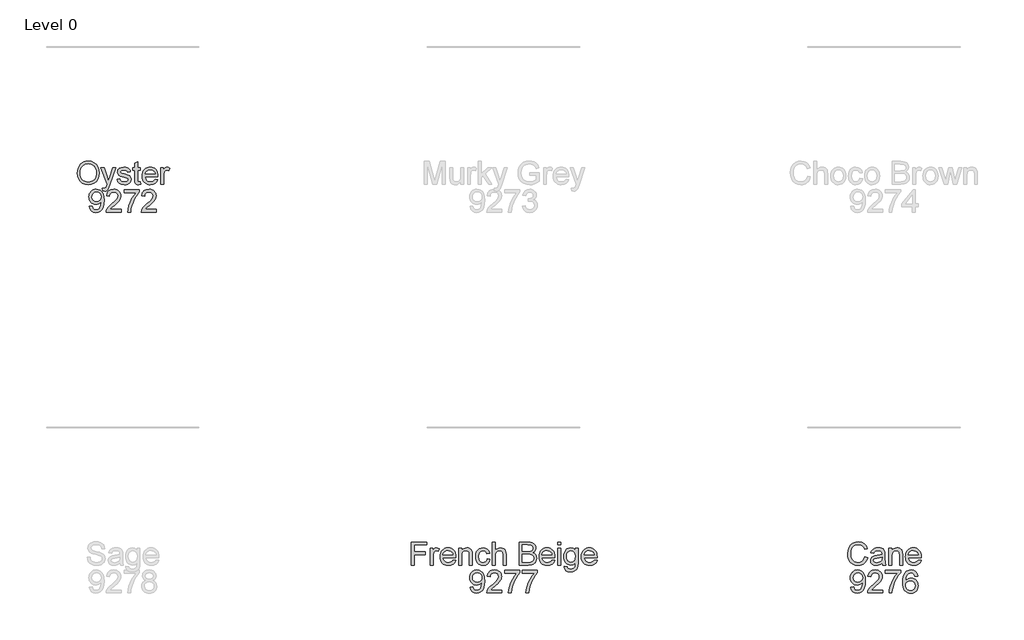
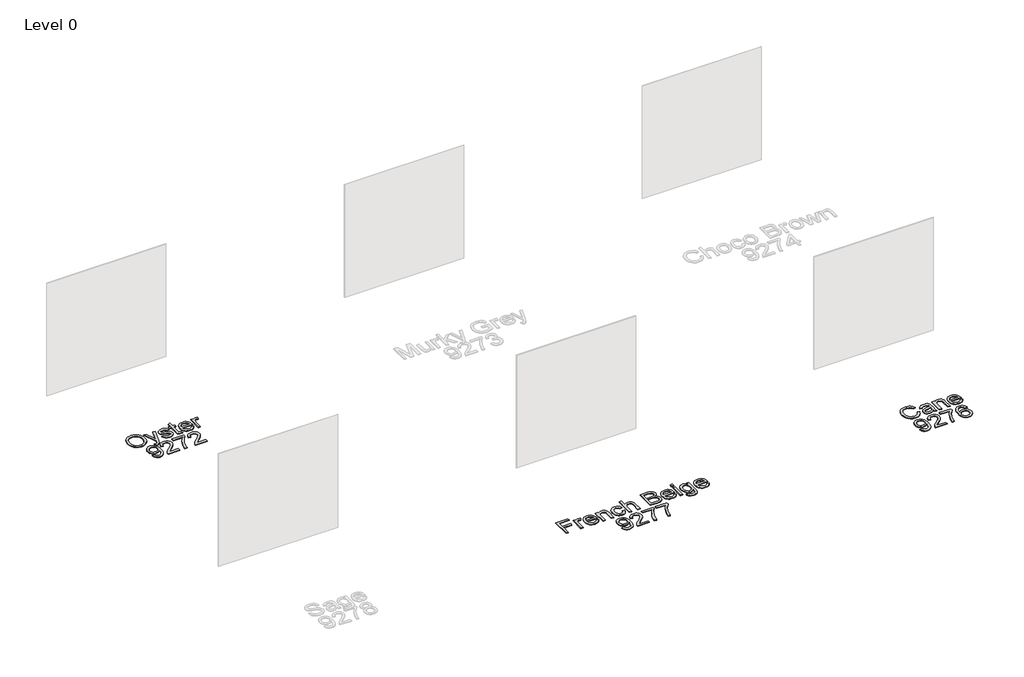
# One storey, part 3 of 6: 3 proxies.
"""IFC4 building model written with IfcOpenShell, lengths in millimetres."""

from ifc_helpers import new_model, si_unit, origin, origin_with_axes, place, context, project, spatial, polyline, outline, extrude, element, save

model = new_model("IFC4")

# Units and contexts
model_context = context("Model", 3, world=origin())
ifc_project = project(units=[si_unit("LENGTHUNIT", "METRE", prefix="MILLI")], contexts=[model_context])

# Site, building, storey
site = spatial("IfcSite", under=ifc_project)
building = spatial("IfcBuilding", under=site)
storey = spatial("IfcBuildingStorey", under=building, Name="Level 0", Elevation=0.0)

# Proxies
placement = place(None, origin())
element("IfcBuildingElementProxy", 1, Name="300mm Arial", ObjectType="300mm Arial", at=placement, inside=storey, context=model_context, shape_type="SweptSolid", body=[
    extrude(outline(polyline([(-5046.3325829, -6856.1491543), (-5043.8217883, -6820.8002931), (-5036.2894044, -6789.5073309), (-5023.7354313, -6762.2702677), (-5006.159869, -6739.0891034), (-4984.6157797, -6720.5800406), (-4960.1562255, -6707.3592814), (-4932.7812066, -6699.4268258), (-4902.4907228, -6696.782674), (-4862.9618024, -6701.7490809), (-4827.5163722, -6716.6483017), (-4798.0858126, -6740.4318727), (-4776.601504, -6772.0513302), (-4763.4681168, -6809.9799639), (-4759.0903211, -6852.6910636), (-4763.6980431, -6895.9723803), (-4777.521209, -6934.4344429), (-4799.7964638, -6966.1090827), (-4829.7604523, -6989.028131), (-4864.9023799, -7002.9340704), (-4902.711452, -7007.5693835), (-4942.8473777, -7002.4466267), (-4978.495143, -6987.0783564), (-5007.8521262, -6962.853327), (-5029.1157055, -6931.1602931), (-5042.0283636, -6894.6939903), (-5046.3325829, -6856.1491543)]), holes=[polyline([(-5008.6614666, -6856.5170363), (-5006.7783706, -6881.4916252), (-5001.1290827, -6903.661114), (-4991.7136029, -6923.0255025), (-4978.5319312, -6939.5847908), (-4962.508371, -6952.8469367), (-4944.567226, -6962.3198981), (-4924.708496, -6968.0036749), (-4902.9321812, -6969.8982672), (-4880.7833858, -6967.9852808), (-4860.6901311, -6962.2463217), (-4842.652417, -6952.6813898), (-4826.6702436, -6939.2904852), (-4813.5851409, -6922.381709), (-4804.2386389, -6902.2631624), (-4798.6307378, -6878.9348454), (-4796.7614374, -6852.396758), (-4799.9620107, -6819.0482551), (-4809.5637308, -6790.2247008), (-4825.3182772, -6766.6526619), (-4846.9773297, -6749.0587055), (-4873.1061484, -6738.1050191), (-4902.2699936, -6734.4537903), (-4923.2898511, -6736.2127261), (-4942.7921954, -6741.4895335), (-4960.7770264, -6750.2842124), (-4977.2443442, -6762.5967629), (-4990.9893352, -6779.0203948), (-5000.807186, -6800.1483176), (-5006.6978964, -6825.9805314), (-5008.6614666, -6856.5170363)])]), origin_with_axes(), (0.0, 0.0, 1.0), 10.0),
    extrude(outline(polyline([(-4712.0014257, -7087.6205057), (-4716.7103152, -7051.3473409), (-4697.5804515, -7054.6582789), (-4679.7013865, -7050.5012124), (-4668.738503, -7038.9129295), (-4658.4378072, -7011.1746271), (-4655.4947512, -7002.0511536), (-4735.5458734, -6781.5426857), (-4695.8146179, -6781.5426857), (-4653.3610356, -6904.4152721), (-4638.5721794, -6953.5643066), (-4623.7833232, -6910.1542312), (-4580.1525186, -6781.5426857), (-4540.7155687, -6781.5426857), (-4617.7500585, -7008.1579947), (-4637.7628391, -7057.3070293), (-4648.0083526, -7072.9971964), (-4659.6150296, -7083.8681093), (-4673.0979047, -7090.2140737), (-4688.9720128, -7092.3293952), (-4712.0014257, -7087.6205057)])), origin_with_axes(), (0.0, 0.0, 1.0), 10.0),
    extrude(outline(polyline([(-4523.6458442, -6936.9360404), (-4485.9747278, -6932.2271509), (-4480.0334336, -6948.3403823), (-4468.5371213, -6960.1861825), (-4451.4122144, -6967.470246), (-4428.5851366, -6969.8982672), (-4406.0339703, -6967.6725811), (-4390.1782563, -6960.9955229), (-4380.7972654, -6951.3202265), (-4377.6702685, -6940.0998256), (-4380.8156595, -6930.4981055), (-4390.2518327, -6923.1772538), (-4429.026595, -6912.4350996), (-4485.7539986, -6894.0042116), (-4500.1105935, -6884.7427824), (-4510.5124569, -6872.4831149), (-4516.8308302, -6858.0069584), (-4518.9369546, -6842.0960621), (-4517.2446974, -6827.5003439), (-4512.1679259, -6814.0266659), (-4504.1664925, -6802.2084568), (-4493.7002497, -6792.5791455), (-4469.7511319, -6781.4323211), (-4437.3407281, -6776.8337961), (-4412.8213931, -6778.6824032), (-4391.5026315, -6784.2282242), (-4374.3593305, -6792.9286334), (-4362.3663775, -6804.2410048), (-4354.4201264, -6819.0022698), (-4349.4169312, -6838.0493601), (-4387.0880475, -6842.7582497), (-4391.8429223, -6830.9032524), (-4401.2515044, -6821.972917), (-4415.4057641, -6816.3719136), (-4434.3976721, -6814.5049125), (-4456.0291334, -6816.2891401), (-4470.4501076, -6821.6418232), (-4478.5619056, -6829.3673451), (-4481.2658383, -6838.2700893), (-4476.777678, -6849.2329728), (-4462.7245857, -6857.5471059), (-4430.2773938, -6865.5669334), (-4374.9847299, -6883.2988455), (-4360.3798147, -6891.7785255), (-4349.3065666, -6903.3852025), (-4342.3260058, -6918.1556646), (-4339.9991522, -6936.1267001), (-4342.730676, -6954.7047408), (-4350.9252474, -6972.1791356), (-4364.2701668, -6987.1795239), (-4382.4527344, -6998.3355454), (-4404.4152895, -7005.260924), (-4429.1001714, -7007.5693835), (-4467.0839874, -7003.1180114), (-4494.8038957, -6989.763895), (-4513.3083601, -6967.654187), (-4523.6458442, -6936.9360404)])), origin_with_axes(), (0.0, 0.0, 1.0), 10.0),
    extrude(outline(polyline([(-4217.5680242, -6971.4433716), (-4212.8591346, -7003.96414), (-4241.0388955, -7007.5693835), (-4259.1202955, -7006.005885), (-4272.6031706, -7001.3153896), (-4282.1313143, -6994.0865084), (-4288.34852, -6984.9078526), (-4291.7698226, -6969.1441091), (-4292.9102568, -6942.1599648), (-4292.9102568, -6819.213802), (-4321.163594, -6819.213802), (-4321.163594, -6781.5426857), (-4292.9102568, -6781.5426857), (-4292.9102568, -6727.758338), (-4255.2391405, -6705.6118419), (-4255.2391405, -6781.5426857), (-4217.5680242, -6781.5426857), (-4217.5680242, -6819.213802), (-4255.2391405, -6819.213802), (-4255.2391405, -6941.0563188), (-4253.2525777, -6960.4804881), (-4246.8146428, -6967.3598814), (-4233.9755611, -6969.8982672), (-4217.5680242, -6971.4433716)])), origin_with_axes(), (0.0, 0.0, 1.0), 10.0),
    extrude(outline(polyline([(-4024.9450115, -6936.9360404), (-3988.0096592, -6941.64493), (-4001.3177903, -6969.4752029), (-4022.5537785, -6990.2789297), (-4051.2393771, -7003.2467701), (-4086.8963395, -7007.5693835), (-4110.2706417, -7005.7046817), (-4131.0973612, -7000.1105761), (-4149.3764978, -6990.7870668), (-4165.1080517, -6977.7341537), (-4177.7585938, -6961.3151204), (-4186.7946953, -6941.8932503), (-4192.2163562, -6919.4685435), (-4194.0235765, -6894.0409998), (-4192.1979621, -6867.7512327), (-4186.7211189, -6844.5792656), (-4177.5930469, -6824.5250983), (-4164.8137461, -6807.5887309), (-4149.123579, -6794.133447), (-4131.2629081, -6784.5225298), (-4111.2317335, -6778.7559796), (-4089.030055, -6776.8337961), (-4067.5434473, -6778.751381), (-4048.1123801, -6784.5041357), (-4030.7368537, -6794.0920602), (-4015.4168678, -6807.5151545), (-4002.9111792, -6824.4147337), (-3993.9785445, -6844.4321128), (-3988.6189637, -6867.5672917), (-3986.8324368, -6893.8202706), (-3987.053166, -6903.9738137), (-4156.3524602, -6903.9738137), (-4149.8317518, -6932.1719686), (-4134.6842106, -6952.902119), (-4112.8228231, -6965.6492302), (-4086.1605755, -6969.8982672), (-4066.1110067, -6967.9300985), (-4049.2252232, -6962.0255925), (-4035.5032248, -6951.8168672), (-4024.9450115, -6936.9360404)]), holes=[polyline([(-4156.3524602, -6866.3026974), (-4024.5035531, -6866.3026974), (-4029.5987187, -6846.4002814), (-4039.5867149, -6832.1632482), (-4061.54927, -6818.9194964), (-4089.1772078, -6814.5049125), (-4114.5702626, -6818.0273826), (-4135.5671274, -6828.5947929), (-4150.1628456, -6845.0667092), (-4156.3524602, -6866.3026974)])]), origin_with_axes(), (0.0, 0.0, 1.0), 10.0),
    extrude(outline(polyline([(-3949.1613205, -7002.860494), (-3949.1613205, -6781.5426857), (-3916.1990937, -6781.5426857), (-3916.1990937, -6814.2841833), (-3904.0221997, -6795.3014723), (-3892.8017988, -6784.1178596), (-3881.5446098, -6778.654812), (-3869.2573511, -6776.8337961), (-3850.4953694, -6779.7400639), (-3831.439082, -6788.4588672), (-3844.0206463, -6822.2304343), (-3857.2643981, -6816.4362929), (-3870.5081499, -6814.5049125), (-3881.7561419, -6816.3627165), (-3891.8085174, -6821.9361288), (-3899.9295125, -6830.8020848), (-3905.3833631, -6842.5375205), (-3909.9634939, -6863.5803706), (-3911.4902042, -6886.5362071), (-3911.4902042, -7002.860494), (-3949.1613205, -7002.860494)])), origin_with_axes(), (0.0, 0.0, 1.0), 10.0),
    extrude(outline(polyline([(-4888.5847834, -7293.4427149), (-4850.9136671, -7288.7338254), (-4844.4757321, -7310.1169663), (-4833.9910953, -7324.6758963), (-4819.7172739, -7333.0360146), (-4801.9117853, -7335.8227207), (-4785.9365097, -7334.029296), (-4771.4143679, -7328.6490218), (-4759.3478385, -7320.2705094), (-4750.7393998, -7309.4823699), (-4738.4153529, -7276.7408723), (-4732.9706994, -7233.0364913), (-4733.1914286, -7225.6788514), (-4746.2420424, -7241.6081418), (-4763.320964, -7254.2264942), (-4783.1957888, -7262.4486568), (-4804.6341121, -7265.1893777), (-4822.5292719, -7263.5155146), (-4838.9850934, -7258.4939254), (-4854.0015766, -7250.12461), (-4867.5787214, -7238.4075684), (-4878.8290127, -7223.9544045), (-4886.864935, -7207.3767221), (-4891.6864884, -7188.6745212), (-4893.2936729, -7167.8478018), (-4891.6083135, -7146.326705), (-4886.5522353, -7127.0129003), (-4878.1254384, -7109.9063875), (-4866.3279227, -7095.0071667), (-4851.9920212, -7082.9360387), (-4835.9500669, -7074.3138045), (-4818.2020599, -7069.1404639), (-4798.7480001, -7067.4160171), (-4770.6510128, -7071.3523544), (-4745.074017, -7083.1613665), (-4723.681679, -7102.254442), (-4708.1386647, -7128.0429699), (-4698.6749004, -7163.6907352), (-4695.5203123, -7212.3615232), (-4698.6657034, -7263.96617), (-4708.1018765, -7303.8537754), (-4723.7460584, -7333.8269609), (-4745.5154754, -7355.6883485), (-4772.4720286, -7369.0424649), (-4803.6776189, -7373.4938371), (-4835.8856876, -7368.2423216), (-4861.5822449, -7352.4877751), (-4879.5532804, -7327.2234791), (-4888.5847834, -7293.4427149)]), holes=[polyline([(-4733.1914286, -7166.964885), (-4737.2565246, -7141.4338745), (-4749.4518128, -7121.788976), (-4768.3793414, -7109.262594), (-4792.641159, -7105.0871334), (-4817.8042875, -7109.5844908), (-4837.9642208, -7123.0765629), (-4851.2079727, -7143.7239399), (-4855.6225566, -7169.6872117), (-4851.447096, -7192.964945), (-4838.920714, -7211.4418182), (-4819.2574214, -7223.4991506), (-4793.6712286, -7227.5182614), (-4769.6025491, -7223.4991506), (-4750.224365, -7211.4418182), (-4737.4496627, -7192.2843633), (-4733.1914286, -7166.964885)])]), origin_with_axes(), (0.0, 0.0, 1.0), 10.0),
    extrude(outline(polyline([(-4469.4936145, -7331.1138312), (-4469.4936145, -7368.7849475), (-4667.2669751, -7368.7849475), (-4663.2202731, -7342.8124787), (-4653.9312527, -7322.5145896), (-4640.338013, -7302.8237058), (-4620.6747204, -7282.213117), (-4593.1755412, -7259.156113), (-4552.5245808, -7223.0484951), (-4528.1340045, -7196.3954446), (-4515.9387164, -7174.7639833), (-4511.8736203, -7153.7211331), (-4515.7087901, -7134.8579838), (-4527.2142995, -7119.1770138), (-4544.9002264, -7108.6096035), (-4567.2766488, -7105.0871334), (-4590.7751112, -7108.52683), (-4609.0312552, -7118.84592), (-4620.8126761, -7135.2350629), (-4624.8869692, -7156.8849183), (-4662.5580855, -7152.1760288), (-4653.425415, -7115.7373171), (-4644.8790564, -7101.2013798), (-4633.6793489, -7089.1210548), (-4620.0838099, -7079.6251008), (-4604.3499568, -7072.8422765), (-4566.4673084, -7067.4160171), (-4546.2774846, -7068.9243332), (-4528.3087484, -7073.4492818), (-4512.5610998, -7080.9908627), (-4499.0345387, -7091.549076), (-4488.1705235, -7104.3421723), (-4480.4105127, -7118.5884026), (-4475.7545062, -7134.2877667), (-4474.202504, -7151.4402648), (-4475.8763671, -7169.4572855), (-4480.8979563, -7187.1616065), (-4489.8098976, -7205.1694302), (-4503.154817, -7224.0969588), (-4524.4275934, -7246.6941104), (-4557.1231057, -7275.7108027), (-4600.4596047, -7311.9471793), (-4617.4557529, -7331.1138312), (-4469.4936145, -7331.1138312)])), origin_with_axes(), (0.0, 0.0, 1.0), 10.0),
    extrude(outline(polyline([(-4431.8224982, -7109.7960229), (-4431.8224982, -7072.1249066), (-4234.0491375, -7072.1249066), (-4234.0491375, -7102.5855358), (-4262.2380954, -7138.2608923), (-4290.1511418, -7183.6299393), (-4314.7716443, -7234.5540045), (-4333.0829706, -7286.8944154), (-4342.0592913, -7326.0554538), (-4347.0624865, -7368.7849475), (-4384.7336028, -7368.7849475), (-4380.6593097, -7329.9550029), (-4369.7608056, -7283.8042066), (-4352.332396, -7234.8850983), (-4328.6683867, -7187.7502177), (-4301.0404489, -7145.1402856), (-4271.7202539, -7109.7960229), (-4431.8224982, -7109.7960229)])), origin_with_axes(), (0.0, 0.0, 1.0), 10.0),
    extrude(outline(polyline([(-4008.0224397, -7331.1138312), (-4008.0224397, -7368.7849475), (-4205.7958003, -7368.7849475), (-4201.7490984, -7342.8124787), (-4192.460078, -7322.5145896), (-4178.8668383, -7302.8237058), (-4159.2035456, -7282.213117), (-4131.7043665, -7259.156113), (-4091.053406, -7223.0484951), (-4066.6628297, -7196.3954446), (-4054.4675416, -7174.7639833), (-4050.4024456, -7153.7211331), (-4054.2376154, -7134.8579838), (-4065.7431248, -7119.1770138), (-4083.4290517, -7108.6096035), (-4105.805474, -7105.0871334), (-4129.3039365, -7108.52683), (-4147.5600805, -7118.84592), (-4159.3415014, -7135.2350629), (-4163.4157945, -7156.8849183), (-4201.0869108, -7152.1760288), (-4191.9542402, -7115.7373171), (-4183.4078816, -7101.2013798), (-4172.2081742, -7089.1210548), (-4158.6126352, -7079.6251008), (-4142.8787821, -7072.8422765), (-4104.9961336, -7067.4160171), (-4084.8063099, -7068.9243332), (-4066.8375737, -7073.4492818), (-4051.089925, -7080.9908627), (-4037.5633639, -7091.549076), (-4026.6993488, -7104.3421723), (-4018.9393379, -7118.5884026), (-4014.2833314, -7134.2877667), (-4012.7313292, -7151.4402648), (-4014.4051923, -7169.4572855), (-4019.4267816, -7187.1616065), (-4028.3387229, -7205.1694302), (-4041.6836423, -7224.0969588), (-4062.9564186, -7246.6941104), (-4095.651931, -7275.7108027), (-4138.98843, -7311.9471793), (-4155.9845782, -7331.1138312), (-4008.0224397, -7331.1138312)])), origin_with_axes(), (0.0, 0.0, 1.0), 10.0),
])
element("IfcBuildingElementProxy", 2, Name="300mm Arial", ObjectType="300mm Arial", at=placement, inside=storey, context=model_context, shape_type="SweptSolid", body=[
    extrude(outline(polyline([(-658.4882229, -12002.860494), (-658.4882229, -11701.4915635), (-456.0059727, -11701.4915635), (-456.0059727, -11739.1626798), (-620.8171066, -11739.1626798), (-620.8171066, -11828.6315811), (-479.5504204, -11828.6315811), (-479.5504204, -11866.3026974), (-620.8171066, -11866.3026974), (-620.8171066, -12002.860494), (-658.4882229, -12002.860494)])), origin_with_axes(), (0.0, 0.0, 1.0), 10.0),
    extrude(outline(polyline([(-408.9170773, -12002.860494), (-408.9170773, -11781.5426857), (-375.9548506, -11781.5426857), (-375.9548506, -11814.2841833), (-363.7779565, -11795.3014723), (-352.5575557, -11784.1178596), (-341.3003666, -11778.654812), (-329.013108, -11776.8337961), (-310.2511262, -11779.7400639), (-291.1948389, -11788.4588672), (-303.7764031, -11822.2304343), (-317.0201549, -11816.4362929), (-330.2639068, -11814.5049125), (-341.5118988, -11816.3627165), (-351.5642743, -11821.9361288), (-359.6852693, -11830.8020848), (-365.1391199, -11842.5375205), (-369.7192508, -11863.5803706), (-371.245961, -11886.5362071), (-371.245961, -12002.860494), (-408.9170773, -12002.860494)])), origin_with_axes(), (0.0, 0.0, 1.0), 10.0),
    extrude(outline(polyline([(-112.6984948, -11936.9360404), (-75.7631425, -11941.64493), (-89.0712737, -11969.4752029), (-110.3072619, -11990.2789297), (-138.9928604, -12003.2467701), (-174.6498228, -12007.5693835), (-198.0241251, -12005.7046817), (-218.8508445, -12000.1105761), (-237.1299812, -11990.7870668), (-252.861535, -11977.7341537), (-265.5120771, -11961.3151204), (-274.5481786, -11941.8932503), (-279.9698395, -11919.4685435), (-281.7770598, -11894.0409998), (-279.9514454, -11867.7512327), (-274.4746022, -11844.5792656), (-265.3465302, -11824.5250983), (-252.5672294, -11807.5887309), (-236.8770623, -11794.133447), (-219.0163914, -11784.5225298), (-198.9852168, -11778.7559796), (-176.7835384, -11776.8337961), (-155.2969306, -11778.751381), (-135.8658635, -11784.5041357), (-118.490337, -11794.0920602), (-103.1703512, -11807.5151545), (-90.6646626, -11824.4147337), (-81.7320279, -11844.4321128), (-76.3724471, -11867.5672917), (-74.5859201, -11893.8202706), (-74.8066493, -11903.9738137), (-244.1059435, -11903.9738137), (-237.5852351, -11932.1719686), (-222.437694, -11952.902119), (-200.5763064, -11965.6492302), (-173.9140588, -11969.8982672), (-153.8644901, -11967.9300985), (-136.9787065, -11962.0255925), (-123.2567081, -11951.8168672), (-112.6984948, -11936.9360404)]), holes=[polyline([(-244.1059435, -11866.3026974), (-112.2570364, -11866.3026974), (-117.3522021, -11846.4002814), (-127.3401982, -11832.1632482), (-149.3027533, -11818.9194964), (-176.9306912, -11814.5049125), (-202.3237459, -11818.0273826), (-223.3206108, -11828.5947929), (-237.9163289, -11845.0667092), (-244.1059435, -11866.3026974)])]), origin_with_axes(), (0.0, 0.0, 1.0), 10.0),
    extrude(outline(polyline([(-36.9148038, -12002.860494), (-36.9148038, -11781.5426857), (0.7563125, -11781.5426857), (0.7563125, -11812.4447733), (13.8437145, -11796.8649708), (29.5614727, -11785.7365404), (47.9095872, -11779.0594822), (68.888058, -11776.8337961), (87.4569017, -11778.6272209), (104.4622469, -11784.0074951), (118.6440978, -11792.303234), (128.7424586, -11802.8430532), (140.0364359, -11830.5445674), (142.0229986, -11866.964885), (142.0229986, -12002.860494), (104.3518823, -12002.860494), (104.3518823, -11872.0416565), (100.0108748, -11838.7115477), (94.0052012, -11828.7879309), (84.6701956, -11821.0900002), (72.7048337, -11816.1511844), (58.8080913, -11814.5049125), (36.7443687, -11818.2021265), (17.9364017, -11829.2937687), (10.4201126, -11838.3482643), (5.0513348, -11850.7228949), (0.7563125, -11885.4325611), (0.7563125, -12002.860494), (-36.9148038, -12002.860494)])), origin_with_axes(), (0.0, 0.0, 1.0), 10.0),
    extrude(outline(polyline([(335.0874697, -11922.8093718), (372.758586, -11927.5182614), (362.255555, -11961.0231141), (342.518686, -11986.3425924), (315.405783, -12002.2626857), (282.77465, -12007.5693835), (261.6467272, -12005.7184772), (242.7031037, -12000.1657584), (225.9437795, -11990.9112269), (211.3687547, -11977.9548829), (199.571239, -11961.5404481), (191.144442, -11941.9116444), (186.0883639, -11919.0684718), (184.4030045, -11893.0109302), (187.2816811, -11859.4876834), (195.9177109, -11830.4342028), (210.4490497, -11806.9725286), (231.0136533, -11790.2247008), (255.6157617, -11780.1815223), (282.2596152, -11776.8337961), (314.0906048, -11781.4323211), (339.5388418, -11795.2278959), (357.7949859, -11817.4847566), (368.0496965, -11847.4671392), (330.3785802, -11852.1760288), (323.5451721, -11835.7409006), (312.9041854, -11823.9594797), (299.0442312, -11816.8685543), (282.5539208, -11814.5049125), (258.2093298, -11819.1586197), (238.886328, -11833.1197414), (226.2771726, -11857.1424357), (222.0741208, -11891.9808606), (226.1852021, -11927.2883351), (238.518446, -11951.3938029), (257.4919599, -11965.2721511), (281.5238512, -11969.8982672), (301.030794, -11967.0103936), (317.0244637, -11958.3467726), (328.6587318, -11943.6866751), (335.0874697, -11922.8093718)])), origin_with_axes(), (0.0, 0.0, 1.0), 10.0),
    extrude(outline(polyline([(405.7208128, -12002.860494), (405.7208128, -11701.4915635), (443.3919291, -11701.4915635), (443.3919291, -11812.2976205), (457.2288906, -11796.7821973), (472.7673064, -11785.6997522), (490.0071764, -11779.0502852), (508.9485006, -11776.8337961), (531.702002, -11779.2526203), (551.2549301, -11786.5090926), (566.6507916, -11798.0329961), (576.9330933, -11813.2541137), (582.7272348, -11834.1682051), (584.6586152, -11862.7710302), (584.6586152, -12002.860494), (546.9874989, -12002.860494), (546.9874989, -11866.6705794), (543.9892607, -11843.0893435), (534.9945459, -11826.9393239), (520.4999953, -11817.6135153), (501.0022495, -11814.5049125), (485.0821562, -11816.6018398), (470.1369501, -11822.8926219), (457.757721, -11832.7702535), (449.5355584, -11845.6277292), (444.9278364, -11862.7158479), (443.3919291, -11885.2854083), (443.3919291, -12002.860494), (405.7208128, -12002.860494)])), origin_with_axes(), (0.0, 0.0, 1.0), 10.0),
    extrude(outline(polyline([(758.8875281, -12002.860494), (758.8875281, -11701.4915635), (873.8874398, -11701.4915635), (905.5160944, -11703.7080526), (930.2101733, -11710.3575196), (949.137702, -11721.6055116), (963.4667057, -11737.6175755), (972.4890116, -11756.4531336), (975.4964469, -11776.1716086), (972.9672582, -11794.317388), (965.379692, -11811.3779155), (952.6785662, -11826.3047274), (934.8086982, -11838.0493601), (956.155051, -11849.1961846), (971.9279916, -11866.1555446), (981.6676674, -11887.8054), (984.914226, -11913.0237108), (982.697737, -11934.0389697), (976.0482699, -11953.5275184), (966.1246531, -11970.1006023), (954.0857148, -11982.3694669), (939.3428438, -11991.253817), (921.307429, -11997.6733578), (873.004523, -12002.860494), (758.8875281, -12002.860494)]), holes=[polyline([(796.5586445, -11823.9226915), (865.3525775, -11823.9226915), (905.5252914, -11820.68533), (919.5875807, -11815.1027207), (929.6951385, -11806.7426024), (935.7927826, -11795.7337336), (937.8253306, -11782.2048733), (935.9307383, -11769.071486), (930.2469615, -11757.630356), (921.0315175, -11748.7000206), (908.5419238, -11743.0990172), (860.1286532, -11739.1626798), (796.5586445, -11739.1626798), (796.5586445, -11823.9226915)]), polyline([(796.5586445, -11965.1893777), (873.8138634, -11965.1893777), (901.7728951, -11963.7178497), (925.4277074, -11955.5140812), (941.0994804, -11938.7754504), (945.7072023, -11926.9480443), (947.2431097, -11913.3915928), (945.4404879, -11897.6462434), (940.0326226, -11884.1081859), (930.5872523, -11873.5223815), (916.6721159, -11866.6337912), (896.962838, -11862.8538037), (870.1350435, -11861.5938078), (796.5586445, -11861.5938078), (796.5586445, -11965.1893777)])]), origin_with_axes(), (0.0, 0.0, 1.0), 10.0),
    extrude(outline(polyline([(1186.9550177, -11936.9360404), (1223.89037, -11941.64493), (1210.5822389, -11969.4752029), (1189.3462507, -11990.2789297), (1160.6606521, -12003.2467701), (1125.0036897, -12007.5693835), (1101.6293875, -12005.7046817), (1080.802668, -12000.1105761), (1062.5235314, -11990.7870668), (1046.7919776, -11977.7341537), (1034.1414355, -11961.3151204), (1025.105334, -11941.8932503), (1019.6836731, -11919.4685435), (1017.8764527, -11894.0409998), (1019.7020672, -11867.7512327), (1025.1789104, -11844.5792656), (1034.3069824, -11824.5250983), (1047.0862832, -11807.5887309), (1062.7764503, -11794.133447), (1080.6371211, -11784.5225298), (1100.6682958, -11778.7559796), (1122.8699742, -11776.8337961), (1144.356582, -11778.751381), (1163.7876491, -11784.5041357), (1181.1631756, -11794.0920602), (1196.4831614, -11807.5151545), (1208.98885, -11824.4147337), (1217.9214847, -11844.4321128), (1223.2810655, -11867.5672917), (1225.0675924, -11893.8202706), (1224.8468632, -11903.9738137), (1055.5475691, -11903.9738137), (1062.0682774, -11932.1719686), (1077.2158186, -11952.902119), (1099.0772061, -11965.6492302), (1125.7394537, -11969.8982672), (1145.7890225, -11967.9300985), (1162.6748061, -11962.0255925), (1176.3968045, -11951.8168672), (1186.9550177, -11936.9360404)]), holes=[polyline([(1055.5475691, -11866.3026974), (1187.3964761, -11866.3026974), (1182.3013105, -11846.4002814), (1172.3133143, -11832.1632482), (1150.3507592, -11818.9194964), (1122.7228214, -11814.5049125), (1097.3297667, -11818.0273826), (1076.3329018, -11828.5947929), (1061.7371836, -11845.0667092), (1055.5475691, -11866.3026974)])]), origin_with_axes(), (0.0, 0.0, 1.0), 10.0),
    extrude(outline(polyline([(1262.7387087, -11739.1626798), (1262.7387087, -11701.4915635), (1300.409825, -11701.4915635), (1300.409825, -11739.1626798), (1262.7387087, -11739.1626798)])), origin_with_axes(), (0.0, 0.0, 1.0), 10.0),
    extrude(outline(polyline([(1262.7387087, -12002.860494), (1262.7387087, -11781.5426857), (1300.409825, -11781.5426857), (1300.409825, -12002.860494), (1262.7387087, -12002.860494)])), origin_with_axes(), (0.0, 0.0, 1.0), 10.0),
    extrude(outline(polyline([(1347.4987204, -12021.6960521), (1385.1698367, -12026.4049417), (1389.3269033, -12038.1771655), (1397.383519, -12046.2705694), (1413.2208389, -12052.5613515), (1433.9509893, -12054.6582789), (1456.0606972, -12052.28544), (1472.5050224, -12045.1669234), (1483.9093642, -12033.7625816), (1490.8991221, -12018.532267), (1493.4742961, -11974.6071568), (1480.9387171, -11986.9679918), (1466.9500043, -11995.7971597), (1451.5081575, -12001.0946604), (1434.6131769, -12002.860494), (1413.9589021, -12000.8049533), (1395.7740352, -11994.6383314), (1380.0585763, -11984.3606281), (1366.8125252, -11969.9718436), (1356.3025964, -11952.708981), (1348.7955045, -11933.8090435), (1344.2912493, -11913.2720311), (1342.7898309, -11891.0979438), (1345.4845665, -11860.6832999), (1353.5687733, -11832.7150712), (1366.7573429, -11809.0142737), (1384.7651665, -11791.4019232), (1406.976042, -11780.4758279), (1432.7737669, -11776.8337961), (1450.390716, -11778.8939353), (1466.3797872, -11785.0743528), (1480.7409806, -11795.3750487), (1493.4742961, -11809.7960229), (1493.4742961, -11781.5426857), (1531.1454124, -11781.5426857), (1531.1454124, -11972.620594), (1528.5702385, -12016.7388422), (1520.8447166, -12045.7923228), (1507.5365854, -12065.0601423), (1488.2135836, -12079.8214074), (1463.2987755, -12089.2023982), (1433.2152253, -12092.3293952), (1398.1652682, -12087.9240083), (1370.5649215, -12074.7078476), (1360.1699559, -12064.7865301), (1352.8606005, -12052.644125), (1348.6368554, -12038.2806323), (1347.4987204, -12021.6960521)]), holes=[polyline([(1380.4609472, -11888.5227699), (1384.480058, -11923.0760863), (1396.5373904, -11946.8320661), (1414.6647757, -11960.6000498), (1436.8940453, -11965.1893777), (1458.9577679, -11960.6276409), (1477.1771237, -11946.9424307), (1489.400003, -11923.4899535), (1493.4742961, -11889.6264159), (1489.2804414, -11856.9676917), (1476.6988771, -11833.4508352), (1458.2128069, -11819.2413931), (1436.3054341, -11814.5049125), (1414.7935344, -11819.1678167), (1396.7581196, -11833.1565296), (1384.5352403, -11856.3238983), (1380.4609472, -11888.5227699)])]), origin_with_axes(), (0.0, 0.0, 1.0), 10.0),
    extrude(outline(polyline([(1742.6039832, -11936.9360404), (1779.5393356, -11941.64493), (1766.2312044, -11969.4752029), (1744.9952162, -11990.2789297), (1716.3096176, -12003.2467701), (1680.6526553, -12007.5693835), (1657.278353, -12005.7046817), (1636.4516335, -12000.1105761), (1618.1724969, -11990.7870668), (1602.4409431, -11977.7341537), (1589.790401, -11961.3151204), (1580.7542995, -11941.8932503), (1575.3326386, -11919.4685435), (1573.5254183, -11894.0409998), (1575.3510327, -11867.7512327), (1580.8278759, -11844.5792656), (1589.9559479, -11824.5250983), (1602.7352487, -11807.5887309), (1618.4254158, -11794.133447), (1636.2860866, -11784.5225298), (1656.3172613, -11778.7559796), (1678.5189397, -11776.8337961), (1700.0055475, -11778.751381), (1719.4366146, -11784.5041357), (1736.8121411, -11794.0920602), (1752.1321269, -11807.5151545), (1764.6378155, -11824.4147337), (1773.5704502, -11844.4321128), (1778.930031, -11867.5672917), (1780.7165579, -11893.8202706), (1780.4958288, -11903.9738137), (1611.1965346, -11903.9738137), (1617.7172429, -11932.1719686), (1632.8647841, -11952.902119), (1654.7261717, -11965.6492302), (1681.3884193, -11969.8982672), (1701.437988, -11967.9300985), (1718.3237716, -11962.0255925), (1732.04577, -11951.8168672), (1742.6039832, -11936.9360404)]), holes=[polyline([(1611.1965346, -11866.3026974), (1743.0454416, -11866.3026974), (1737.950276, -11846.4002814), (1727.9622798, -11832.1632482), (1705.9997247, -11818.9194964), (1678.3717869, -11814.5049125), (1652.9787322, -11818.0273826), (1631.9818673, -11828.5947929), (1617.3861491, -11845.0667092), (1611.1965346, -11866.3026974)])]), origin_with_axes(), (0.0, 0.0, 1.0), 10.0),
    extrude(outline(polyline([(111.4152166, -12293.4427149), (149.0863329, -12288.7338254), (155.5242679, -12310.1169663), (166.0089047, -12324.6758963), (180.2827261, -12333.0360146), (198.0882147, -12335.8227207), (214.0634903, -12334.029296), (228.5856321, -12328.6490218), (240.6521615, -12320.2705094), (249.2606002, -12309.4823699), (261.5846471, -12276.7408723), (267.0293006, -12233.0364913), (266.8085714, -12225.6788514), (253.7579576, -12241.6081418), (236.679036, -12254.2264942), (216.8042112, -12262.4486568), (195.3658879, -12265.1893777), (177.4707281, -12263.5155146), (161.0149066, -12258.4939254), (145.9984234, -12250.12461), (132.4212786, -12238.4075684), (121.1709873, -12223.9544045), (113.135065, -12207.3767221), (108.3135116, -12188.6745212), (106.7063271, -12167.8478018), (108.3916865, -12146.326705), (113.4477647, -12127.0129003), (121.8745616, -12109.9063875), (133.6720773, -12095.0071667), (148.0079788, -12082.9360387), (164.0499331, -12074.3138045), (181.7979401, -12069.1404639), (201.2519999, -12067.4160171), (229.3489872, -12071.3523544), (254.925983, -12083.1613665), (276.318321, -12102.254442), (291.8613353, -12128.0429699), (301.3250996, -12163.6907352), (304.4796877, -12212.3615232), (301.3342966, -12263.96617), (291.8981235, -12303.8537754), (276.2539416, -12333.8269609), (254.4845246, -12355.6883485), (227.5279714, -12369.0424649), (196.3223811, -12373.4938371), (164.1143124, -12368.2423216), (138.4177551, -12352.4877751), (120.4467196, -12327.2234791), (111.4152166, -12293.4427149)]), holes=[polyline([(266.8085714, -12166.964885), (262.7434754, -12141.4338745), (250.5481872, -12121.788976), (231.6206586, -12109.262594), (207.358841, -12105.0871334), (182.1957125, -12109.5844908), (162.0357792, -12123.0765629), (148.7920273, -12143.7239399), (144.3774434, -12169.6872117), (148.552904, -12192.964945), (161.079286, -12211.4418182), (180.7425786, -12223.4991506), (206.3287714, -12227.5182614), (230.3974509, -12223.4991506), (249.775635, -12211.4418182), (262.5503373, -12192.2843633), (266.8085714, -12166.964885)])]), origin_with_axes(), (0.0, 0.0, 1.0), 10.0),
    extrude(outline(polyline([(530.5063855, -12331.1138312), (530.5063855, -12368.7849475), (332.7330249, -12368.7849475), (336.7797269, -12342.8124787), (346.0687473, -12322.5145896), (359.661987, -12302.8237058), (379.3252796, -12282.213117), (406.8244588, -12259.156113), (447.4754192, -12223.0484951), (471.8659955, -12196.3954446), (484.0612836, -12174.7639833), (488.1263797, -12153.7211331), (484.2912099, -12134.8579838), (472.7857005, -12119.1770138), (455.0997736, -12108.6096035), (432.7233512, -12105.0871334), (409.2248888, -12108.52683), (390.9687448, -12118.84592), (379.1873239, -12135.2350629), (375.1130308, -12156.8849183), (337.4419145, -12152.1760288), (346.574585, -12115.7373171), (355.1209436, -12101.2013798), (366.3206511, -12089.1210548), (379.9161901, -12079.6251008), (395.6500432, -12072.8422765), (433.5326916, -12067.4160171), (453.7225154, -12068.9243332), (471.6912516, -12073.4492818), (487.4389002, -12080.9908627), (500.9654613, -12091.549076), (511.8294765, -12104.3421723), (519.5894873, -12118.5884026), (524.2454938, -12134.2877667), (525.797496, -12151.4402648), (524.1236329, -12169.4572855), (519.1020437, -12187.1616065), (510.1901024, -12205.1694302), (496.845183, -12224.0969588), (475.5724066, -12246.6941104), (442.8768943, -12275.7108027), (399.5403953, -12311.9471793), (382.5442471, -12331.1138312), (530.5063855, -12331.1138312)])), origin_with_axes(), (0.0, 0.0, 1.0), 10.0),
    extrude(outline(polyline([(568.1775018, -12109.7960229), (568.1775018, -12072.1249066), (765.9508625, -12072.1249066), (765.9508625, -12102.5855358), (737.7619046, -12138.2608923), (709.8488582, -12183.6299393), (685.2283557, -12234.5540045), (666.9170294, -12286.8944154), (657.9407087, -12326.0554538), (652.9375135, -12368.7849475), (615.2663972, -12368.7849475), (619.3406903, -12329.9550029), (630.2391944, -12283.8042066), (647.667604, -12234.8850983), (671.3316133, -12187.7502177), (698.9595511, -12145.1402856), (728.2797461, -12109.7960229), (568.1775018, -12109.7960229)])), origin_with_axes(), (0.0, 0.0, 1.0), 10.0),
    extrude(outline(polyline([(798.9130892, -12109.7960229), (798.9130892, -12072.1249066), (996.6864498, -12072.1249066), (996.6864498, -12102.5855358), (968.4974919, -12138.2608923), (940.5844456, -12183.6299393), (915.963943, -12234.5540045), (897.6526167, -12286.8944154), (888.676296, -12326.0554538), (883.6731009, -12368.7849475), (846.0019846, -12368.7849475), (850.0762777, -12329.9550029), (860.9747818, -12283.8042066), (878.4031913, -12234.8850983), (902.0672007, -12187.7502177), (929.6951385, -12145.1402856), (959.0153335, -12109.7960229), (798.9130892, -12109.7960229)])), origin_with_axes(), (0.0, 0.0, 1.0), 10.0),
])
element("IfcBuildingElementProxy", 3, Name="300mm Arial", ObjectType="300mm Arial", at=placement, inside=storey, context=model_context, shape_type="SweptSolid", body=[
    extrude(outline(polyline([(5297.4163534, -11895.733257), (5335.0874697, -11905.4453417), (5327.6332608, -11928.872527), (5317.7050454, -11949.3428607), (5305.3028237, -11966.856343), (5290.4265955, -11981.4129737), (5273.4120532, -11992.856403), (5254.5948892, -12001.0302811), (5233.9751033, -12005.9346079), (5211.5526957, -12007.5693835), (5167.8575117, -12002.6213707), (5133.1570425, -11987.7773322), (5106.5591743, -11963.5523028), (5087.1717932, -11930.4613173), (5075.33519, -11891.5577963), (5071.3896556, -11849.8951604), (5075.8502248, -11805.9516561), (5089.2319323, -11768.0046283), (5110.8358025, -11737.2588905), (5139.9628595, -11714.9192564), (5174.5069788, -11701.3168196), (5212.3620361, -11696.782674), (5253.6659871, -11702.6503918), (5271.6347233, -11709.9850391), (5287.8146333, -11720.2535453), (5301.9390027, -11733.1845974), (5313.7411169, -11748.5068825), (5330.3785802, -11786.3251516), (5292.7074639, -11795.3014723), (5279.647653, -11767.8298843), (5261.8053763, -11748.9851291), (5238.9599044, -11738.086625), (5210.8905081, -11734.4537903), (5178.5352867, -11738.4820981), (5151.9558125, -11750.5670217), (5131.7866821, -11769.439368), (5118.6624919, -11793.8299443), (5111.4612019, -11821.4026999), (5109.0607719, -11849.821584), (5111.9026603, -11884.6232207), (5120.4283255, -11914.7159679), (5134.9596643, -11938.9501944), (5155.8185735, -11956.1762688), (5180.8253521, -11966.4677676), (5207.8002994, -11969.8982672), (5239.2450129, -11965.2261659), (5265.447408, -11951.2098619), (5285.2302623, -11927.996508), (5297.4163534, -11895.733257)])), origin_with_axes(), (0.0, 0.0, 1.0), 10.0),
    extrude(outline(polyline([(5523.4430512, -11974.6071568), (5505.4444246, -11990.0398064), (5486.9123691, -12000.1381672), (5467.4238204, -12005.7115794), (5446.5557142, -12007.5693835), (5415.0742125, -12003.0996173), (5391.8516616, -11989.6903186), (5377.5318549, -11969.3280501), (5372.758586, -11943.9993748), (5374.5612078, -11928.3827841), (5379.9690731, -11914.2009331), (5388.3107974, -11902.0608273), (5398.9149959, -11892.5694718), (5425.2921349, -11880.2086368), (5457.8864797, -11874.5432541), (5496.4037246, -11868.5835657), (5523.222322, -11861.5938078), (5523.4430512, -11853.2060983), (5520.8494832, -11836.3938912), (5513.068779, -11825.3942195), (5495.6679606, -11817.2272392), (5471.4245371, -11814.5049125), (5448.9837354, -11816.3167313), (5433.3119624, -11821.7521878), (5422.6249905, -11831.8045633), (5415.1385919, -11847.4671392), (5377.4674755, -11842.7582497), (5384.006578, -11822.156858), (5393.7646479, -11805.9700502), (5407.6521933, -11793.590821), (5426.5797219, -11784.4121652), (5449.7286964, -11778.7283884), (5476.2805795, -11776.8337961), (5501.7472106, -11778.5076592), (5521.9347351, -11783.5292485), (5537.1558526, -11791.0800264), (5547.7232629, -11800.3414556), (5554.7314149, -11811.7917827), (5559.2747576, -11825.9092543), (5561.1141675, -11858.8714811), (5561.1141675, -11905.7396473), (5563.0271539, -11971.1858542), (5570.5319466, -12002.860494), (5532.8608303, -12002.860494), (5523.4430512, -11974.6071568)]), holes=[polyline([(5523.4430512, -11899.2649241), (5462.6689456, -11910.8164188), (5430.2585419, -11916.9232599), (5415.5800502, -11926.8560738), (5410.4297023, -11941.3506244), (5413.2348025, -11952.5526311), (5421.6501032, -11961.7312869), (5435.4916632, -11967.8565221), (5454.5755417, -11969.8982672), (5474.8090515, -11967.64499), (5492.6881164, -11960.8851583), (5507.182667, -11950.9247533), (5517.2626337, -11939.069756), (5521.7324, -11926.8560738), (5523.222322, -11909.933502), (5523.4430512, -11899.2649241)])]), origin_with_axes(), (0.0, 0.0, 1.0), 10.0),
    extrude(outline(polyline([(5612.9119525, -12002.860494), (5612.9119525, -11781.5426857), (5650.5830688, -11781.5426857), (5650.5830688, -11812.4447733), (5663.6704707, -11796.8649708), (5679.388229, -11785.7365404), (5697.7363435, -11779.0594822), (5718.7148143, -11776.8337961), (5737.283658, -11778.6272209), (5754.2890032, -11784.0074951), (5768.4708541, -11792.303234), (5778.5692149, -11802.8430532), (5789.8631921, -11830.5445674), (5791.8497549, -11866.964885), (5791.8497549, -12002.860494), (5754.1786386, -12002.860494), (5754.1786386, -11872.0416565), (5749.8376311, -11838.7115477), (5743.8319575, -11828.7879309), (5734.4969519, -11821.0900002), (5722.53159, -11816.1511844), (5708.6348476, -11814.5049125), (5686.5711249, -11818.2021265), (5667.7631579, -11829.2937687), (5660.2468689, -11838.3482643), (5654.8780911, -11850.7228949), (5650.5830688, -11885.4325611), (5650.5830688, -12002.860494), (5612.9119525, -12002.860494)])), origin_with_axes(), (0.0, 0.0, 1.0), 10.0),
    extrude(outline(polyline([(5998.5994362, -11936.9360404), (6035.5347885, -11941.64493), (6022.2266573, -11969.4752029), (6000.9906692, -11990.2789297), (5972.3050706, -12003.2467701), (5936.6481082, -12007.5693835), (5913.2738059, -12005.7046817), (5892.4470865, -12000.1105761), (5874.1679499, -11990.7870668), (5858.436396, -11977.7341537), (5845.7858539, -11961.3151204), (5836.7497524, -11941.8932503), (5831.3280915, -11919.4685435), (5829.5208712, -11894.0409998), (5831.3464856, -11867.7512327), (5836.8233288, -11844.5792656), (5845.9514008, -11824.5250983), (5858.7307016, -11807.5887309), (5874.4208687, -11794.133447), (5892.2815396, -11784.5225298), (5912.3127142, -11778.7559796), (5934.5143926, -11776.8337961), (5956.0010004, -11778.751381), (5975.4320676, -11784.5041357), (5992.807594, -11794.0920602), (6008.1275799, -11807.5151545), (6020.6332685, -11824.4147337), (6029.5659031, -11844.4321128), (6034.925484, -11867.5672917), (6036.7120109, -11893.8202706), (6036.4912817, -11903.9738137), (5867.1919875, -11903.9738137), (5873.7126959, -11932.1719686), (5888.860237, -11952.902119), (5910.7216246, -11965.6492302), (5937.3838722, -11969.8982672), (5957.4334409, -11967.9300985), (5974.3192245, -11962.0255925), (5988.0412229, -11951.8168672), (5998.5994362, -11936.9360404)]), holes=[polyline([(5867.1919875, -11866.3026974), (5999.0408946, -11866.3026974), (5993.945729, -11846.4002814), (5983.9577328, -11832.1632482), (5961.9951777, -11818.9194964), (5934.3672398, -11814.5049125), (5908.9741851, -11818.0273826), (5887.9773203, -11828.5947929), (5873.3816021, -11845.0667092), (5867.1919875, -11866.3026974)])]), origin_with_axes(), (0.0, 0.0, 1.0), 10.0),
    extrude(outline(polyline([(5111.4152166, -12293.4427149), (5149.0863329, -12288.7338254), (5155.5242679, -12310.1169663), (5166.0089047, -12324.6758963), (5180.2827261, -12333.0360146), (5198.0882147, -12335.8227207), (5214.0634903, -12334.029296), (5228.5856321, -12328.6490218), (5240.6521615, -12320.2705094), (5249.2606002, -12309.4823699), (5261.5846471, -12276.7408723), (5267.0293006, -12233.0364913), (5266.8085714, -12225.6788514), (5253.7579576, -12241.6081418), (5236.679036, -12254.2264942), (5216.8042112, -12262.4486568), (5195.3658879, -12265.1893777), (5177.4707281, -12263.5155146), (5161.0149066, -12258.4939254), (5145.9984234, -12250.12461), (5132.4212786, -12238.4075684), (5121.1709873, -12223.9544045), (5113.135065, -12207.3767221), (5108.3135116, -12188.6745212), (5106.7063271, -12167.8478018), (5108.3916865, -12146.326705), (5113.4477647, -12127.0129003), (5121.8745616, -12109.9063875), (5133.6720773, -12095.0071667), (5148.0079788, -12082.9360387), (5164.0499331, -12074.3138045), (5181.7979401, -12069.1404639), (5201.2519999, -12067.4160171), (5229.3489872, -12071.3523544), (5254.925983, -12083.1613665), (5276.318321, -12102.254442), (5291.8613353, -12128.0429699), (5301.3250996, -12163.6907352), (5304.4796877, -12212.3615232), (5301.3342966, -12263.96617), (5291.8981235, -12303.8537754), (5276.2539416, -12333.8269609), (5254.4845246, -12355.6883485), (5227.5279714, -12369.0424649), (5196.3223811, -12373.4938371), (5164.1143124, -12368.2423216), (5138.4177551, -12352.4877751), (5120.4467196, -12327.2234791), (5111.4152166, -12293.4427149)]), holes=[polyline([(5266.8085714, -12166.964885), (5262.7434754, -12141.4338745), (5250.5481872, -12121.788976), (5231.6206586, -12109.262594), (5207.358841, -12105.0871334), (5182.1957125, -12109.5844908), (5162.0357792, -12123.0765629), (5148.7920273, -12143.7239399), (5144.3774434, -12169.6872117), (5148.552904, -12192.964945), (5161.079286, -12211.4418182), (5180.7425786, -12223.4991506), (5206.3287714, -12227.5182614), (5230.3974509, -12223.4991506), (5249.775635, -12211.4418182), (5262.5503373, -12192.2843633), (5266.8085714, -12166.964885)])]), origin_with_axes(), (0.0, 0.0, 1.0), 10.0),
    extrude(outline(polyline([(5530.5063855, -12331.1138312), (5530.5063855, -12368.7849475), (5332.7330249, -12368.7849475), (5336.7797269, -12342.8124787), (5346.0687473, -12322.5145896), (5359.661987, -12302.8237058), (5379.3252796, -12282.213117), (5406.8244588, -12259.156113), (5447.4754192, -12223.0484951), (5471.8659955, -12196.3954446), (5484.0612836, -12174.7639833), (5488.1263797, -12153.7211331), (5484.2912099, -12134.8579838), (5472.7857005, -12119.1770138), (5455.0997736, -12108.6096035), (5432.7233512, -12105.0871334), (5409.2248888, -12108.52683), (5390.9687448, -12118.84592), (5379.1873239, -12135.2350629), (5375.1130308, -12156.8849183), (5337.4419145, -12152.1760288), (5346.574585, -12115.7373171), (5355.1209436, -12101.2013798), (5366.3206511, -12089.1210548), (5379.9161901, -12079.6251008), (5395.6500432, -12072.8422765), (5433.5326916, -12067.4160171), (5453.7225154, -12068.9243332), (5471.6912516, -12073.4492818), (5487.4389002, -12080.9908627), (5500.9654613, -12091.549076), (5511.8294765, -12104.3421723), (5519.5894873, -12118.5884026), (5524.2454938, -12134.2877667), (5525.797496, -12151.4402648), (5524.1236329, -12169.4572855), (5519.1020437, -12187.1616065), (5510.1901024, -12205.1694302), (5496.845183, -12224.0969588), (5475.5724066, -12246.6941104), (5442.8768943, -12275.7108027), (5399.5403953, -12311.9471793), (5382.5442471, -12331.1138312), (5530.5063855, -12331.1138312)])), origin_with_axes(), (0.0, 0.0, 1.0), 10.0),
    extrude(outline(polyline([(5568.1775018, -12109.7960229), (5568.1775018, -12072.1249066), (5765.9508625, -12072.1249066), (5765.9508625, -12102.5855358), (5737.7619046, -12138.2608923), (5709.8488582, -12183.6299393), (5685.2283557, -12234.5540045), (5666.9170294, -12286.8944154), (5657.9407087, -12326.0554538), (5652.9375135, -12368.7849475), (5615.2663972, -12368.7849475), (5619.3406903, -12329.9550029), (5630.2391944, -12283.8042066), (5647.667604, -12234.8850983), (5671.3316133, -12187.7502177), (5698.9595511, -12145.1402856), (5728.2797461, -12109.7960229), (5568.1775018, -12109.7960229)])), origin_with_axes(), (0.0, 0.0, 1.0), 10.0),
    extrude(outline(polyline([(5991.9775603, -12147.4671392), (5954.306444, -12152.1760288), (5948.2363911, -12133.5060175), (5940.0326226, -12120.7589064), (5922.9445039, -12109.0050766), (5902.2879299, -12105.0871334), (5884.7767469, -12107.3680017), (5868.2956335, -12114.2106069), (5854.1413737, -12128.622384), (5842.580682, -12148.4604206), (5834.7723867, -12176.5206198), (5831.875316, -12215.5988847), (5846.9860689, -12197.9681401), (5865.0950602, -12185.5429257), (5885.1906141, -12178.1760888), (5906.2610554, -12175.7204764), (5924.3608496, -12177.3989381), (5941.0626922, -12182.4343229), (5956.3665832, -12190.8266309), (5970.2725226, -12202.5758621), (5981.8286157, -12216.9830407), (5990.082968, -12233.349191), (5995.0355794, -12251.6743129), (5996.6864498, -12271.9584064), (5993.577847, -12298.9333537), (5984.2520384, -12323.9401323), (5969.4815763, -12345.1485293), (5950.0390128, -12360.7283318), (5926.8072648, -12370.3024607), (5900.6692491, -12373.4938371), (5878.2123525, -12371.3785156), (5857.9305583, -12365.0325512), (5839.8238663, -12354.4559438), (5823.8922767, -12339.6486935), (5810.903743, -12319.9854009), (5801.6262189, -12294.8406665), (5796.0597045, -12264.2144904), (5794.2041997, -12228.1068726), (5796.2643389, -12187.6260575), (5802.4447564, -12153.0773396), (5812.7454522, -12124.4607189), (5827.1664265, -12101.7761954), (5842.7968127, -12086.7436174), (5860.9195995, -12076.0060617), (5881.5347868, -12069.5635282), (5904.6423746, -12067.4160171), (5937.6965719, -12072.7319119), (5964.1656815, -12088.6795964), (5982.706934, -12114.0082718), (5991.9775603, -12147.4671392)]), holes=[polyline([(5831.875316, -12271.3697952), (5834.0550168, -12288.0624407), (5840.5941193, -12304.0009282), (5850.7476623, -12317.7045325), (5863.770685, -12327.6925287), (5879.4884432, -12333.7901727), (5897.7261931, -12335.8227207), (5922.5858189, -12331.6104719), (5942.1295499, -12318.9737254), (5954.7938876, -12299.1080976), (5959.0153335, -12273.2092052), (5954.8490699, -12248.3495793), (5942.3502791, -12229.3944595), (5922.4754544, -12217.3923095), (5896.1810887, -12213.3915928), (5871.3582511, -12217.3923095), (5850.6005095, -12229.3944595), (5836.5566144, -12247.8897269), (5831.875316, -12271.3697952)])]), origin_with_axes(), (0.0, 0.0, 1.0), 10.0),
])

save(model, "model.ifc")
